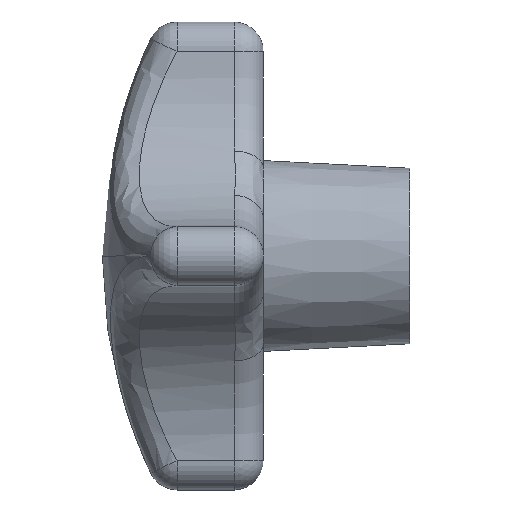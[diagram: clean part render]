
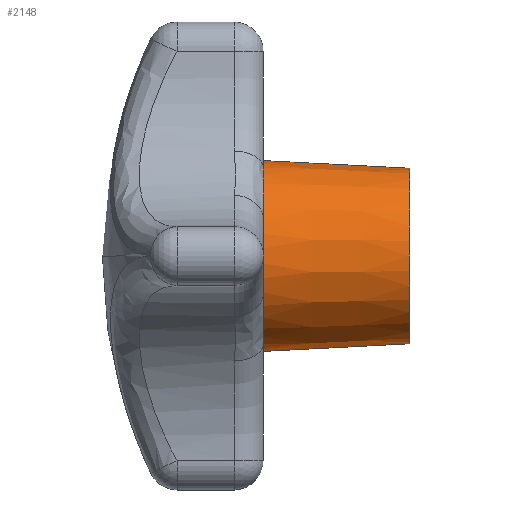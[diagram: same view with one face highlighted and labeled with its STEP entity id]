
A CAD part, left-side view. The second image highlights one B-rep face of the part: STEP entity #2148.
In plain terms, the highlighted conical face has half-angle 3 degrees and reference radius 6 mm.
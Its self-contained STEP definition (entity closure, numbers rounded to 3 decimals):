
#445 = CARTESIAN_POINT ( 'NONE',  ( 0., 0., 0. ) ) ;
#446 = AXIS2_PLACEMENT_3D ( 'NONE', #445, #462, #479 ) ;
#448 = CARTESIAN_POINT ( 'NONE',  ( 0., -10., 6. ) ) ;
#452 = LINE ( 'NONE', #448, #543 ) ;
#462 = DIRECTION ( 'NONE',  ( 0., 1., 0. ) ) ;
#463 = CIRCLE ( 'NONE', #446, 6.524 ) ;
#479 = DIRECTION ( 'NONE',  ( 0., 0., 1. ) ) ;
#482 = CARTESIAN_POINT ( 'NONE',  ( -2.49, 0., -6.03 ) ) ;
#542 = DIRECTION ( 'NONE',  ( 0., 0.999, 0.052 ) ) ;
#543 = VECTOR ( 'NONE', #542, 1000. ) ;
#2121 = ORIENTED_EDGE ( 'NONE', *, *, #2199, .F. ) ;
#2122 = ORIENTED_EDGE ( 'NONE', *, *, #2123, .F. ) ;
#2123 = EDGE_CURVE ( 'NONE', #2154, #2200, #2650, .T. ) ;
#2124 = ORIENTED_EDGE ( 'NONE', *, *, #2147, .F. ) ;
#2125 = ORIENTED_EDGE ( 'NONE', *, *, #2126, .F. ) ;
#2126 = EDGE_CURVE ( 'NONE', #2423, #2163, #2625, .T. ) ;
#2127 = ORIENTED_EDGE ( 'NONE', *, *, #2416, .F. ) ;
#2132 = EDGE_CURVE ( 'NONE', #2214, #2213, #2610, .T. ) ;
#2133 = ORIENTED_EDGE ( 'NONE', *, *, #2433, .T. ) ;
#2134 = ORIENTED_EDGE ( 'NONE', *, *, #2216, .F. ) ;
#2135 = ORIENTED_EDGE ( 'NONE', *, *, #2132, .T. ) ;
#2147 = EDGE_CURVE ( 'NONE', #2163, #2154, #2634, .T. ) ;
#2148 = ADVANCED_FACE ( 'NONE', ( #2629 ), #2626, .T. ) ;
#2149 = EDGE_LOOP ( 'NONE', ( #2134, #2135, #2133, #2121, #2122, #2124, #2125, #2127 ) ) ;
#2154 = VERTEX_POINT ( 'NONE', #2657 ) ;
#2163 = VERTEX_POINT ( 'NONE', #2686 ) ;
#2199 = EDGE_CURVE ( 'NONE', #2200, #2333, #2869, .T. ) ;
#2200 = VERTEX_POINT ( 'NONE', #2864 ) ;
#2213 = VERTEX_POINT ( 'NONE', #2891 ) ;
#2214 = VERTEX_POINT ( 'NONE', #2890 ) ;
#2216 = EDGE_CURVE ( 'NONE', #2214, #2217, #2726, .T. ) ;
#2217 = VERTEX_POINT ( 'NONE', #2722 ) ;
#2333 = VERTEX_POINT ( 'NONE', #3153 ) ;
#2416 = EDGE_CURVE ( 'NONE', #2217, #2423, #463, .T. ) ;
#2423 = VERTEX_POINT ( 'NONE', #482 ) ;
#2433 = EDGE_CURVE ( 'NONE', #2213, #2333, #452, .T. ) ;
#2606 = DIRECTION ( 'NONE',  ( 0., 0., 1. ) ) ;
#2607 = DIRECTION ( 'NONE',  ( 0., 1., 0. ) ) ;
#2608 = CARTESIAN_POINT ( 'NONE',  ( 0., -10., 0. ) ) ;
#2609 = AXIS2_PLACEMENT_3D ( 'NONE', #2608, #2607, #2606 ) ;
#2610 = CIRCLE ( 'NONE', #2609, 6. ) ;
#2622 = DIRECTION ( 'NONE',  ( 0., 0., 1. ) ) ;
#2623 = DIRECTION ( 'NONE',  ( 0., 1., 0. ) ) ;
#2624 = AXIS2_PLACEMENT_3D ( 'NONE', #2651, #2623, #2622 ) ;
#2625 = CIRCLE ( 'NONE', #2624, 6.524 ) ;
#2626 = CONICAL_SURFACE ( 'NONE', #2628, 6., 0.052 ) ;
#2627 = CARTESIAN_POINT ( 'NONE',  ( 0., -10., 0. ) ) ;
#2628 = AXIS2_PLACEMENT_3D ( 'NONE', #2627, #2669, #2668 ) ;
#2629 = FACE_OUTER_BOUND ( 'NONE', #2149, .T. ) ;
#2630 = DIRECTION ( 'NONE',  ( 0., 0., 1. ) ) ;
#2631 = DIRECTION ( 'NONE',  ( 0., 1., 0. ) ) ;
#2632 = CARTESIAN_POINT ( 'NONE',  ( 0., 0., 0. ) ) ;
#2633 = AXIS2_PLACEMENT_3D ( 'NONE', #2632, #2631, #2630 ) ;
#2634 = CIRCLE ( 'NONE', #2633, 6.524 ) ;
#2646 = DIRECTION ( 'NONE',  ( 0., 0., 1. ) ) ;
#2647 = DIRECTION ( 'NONE',  ( 0., 1., 0. ) ) ;
#2648 = CARTESIAN_POINT ( 'NONE',  ( 0., 0., 0. ) ) ;
#2649 = AXIS2_PLACEMENT_3D ( 'NONE', #2648, #2647, #2646 ) ;
#2650 = CIRCLE ( 'NONE', #2649, 6.524 ) ;
#2651 = CARTESIAN_POINT ( 'NONE',  ( 0., 0., 0. ) ) ;
#2657 = CARTESIAN_POINT ( 'NONE',  ( -6.03, 0., 2.49 ) ) ;
#2668 = DIRECTION ( 'NONE',  ( 0., 0., 1. ) ) ;
#2669 = DIRECTION ( 'NONE',  ( 0., 1., 0. ) ) ;
#2686 = CARTESIAN_POINT ( 'NONE',  ( -6.03, 0., -2.49 ) ) ;
#2722 = CARTESIAN_POINT ( 'NONE',  ( 0., 0., -6.524 ) ) ;
#2723 = DIRECTION ( 'NONE',  ( 0., 0.999, -0.052 ) ) ;
#2724 = VECTOR ( 'NONE', #2723, 1000. ) ;
#2725 = CARTESIAN_POINT ( 'NONE',  ( 0., -10., -6. ) ) ;
#2726 = LINE ( 'NONE', #2725, #2724 ) ;
#2864 = CARTESIAN_POINT ( 'NONE',  ( -2.49, 0., 6.03 ) ) ;
#2865 = DIRECTION ( 'NONE',  ( 0., 0., 1. ) ) ;
#2866 = DIRECTION ( 'NONE',  ( 0., 1., 0. ) ) ;
#2867 = CARTESIAN_POINT ( 'NONE',  ( 0., 0., 0. ) ) ;
#2868 = AXIS2_PLACEMENT_3D ( 'NONE', #2867, #2866, #2865 ) ;
#2869 = CIRCLE ( 'NONE', #2868, 6.524 ) ;
#2890 = CARTESIAN_POINT ( 'NONE',  ( 0., -10., -6. ) ) ;
#2891 = CARTESIAN_POINT ( 'NONE',  ( 0., -10., 6. ) ) ;
#3153 = CARTESIAN_POINT ( 'NONE',  ( 0., 0., 6.524 ) ) ;
